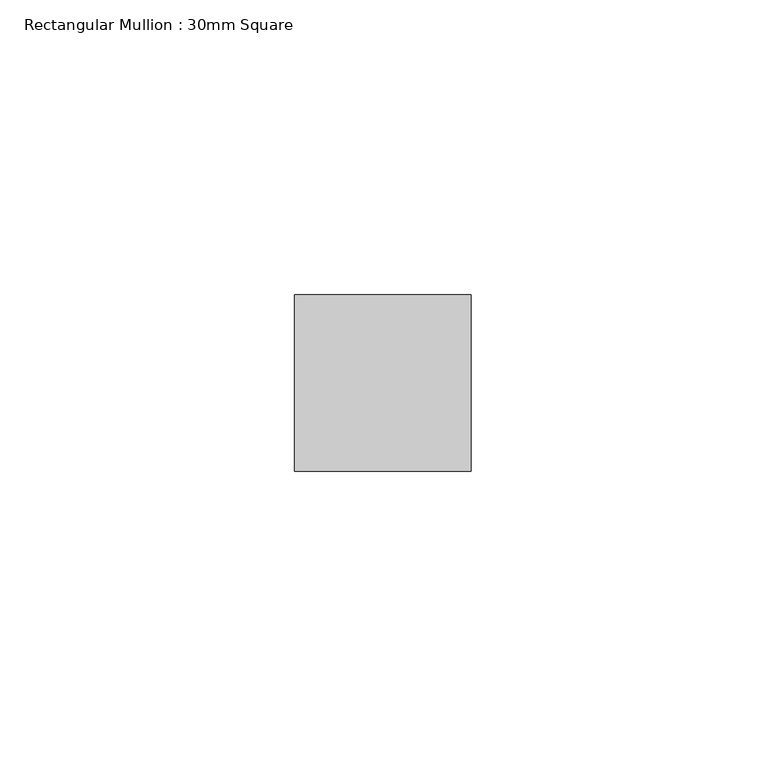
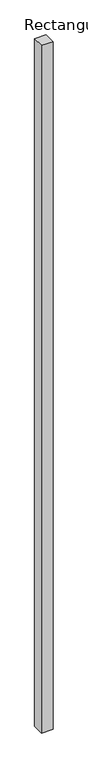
"""IFC4 building model written with IfcOpenShell, lengths in millimetres: member geometry, Rectangular Mullion : 30mm Square."""

from ifc_helpers import new_model, si_unit, frame, origin, place, context, project, spatial, polyline, outline, extrude, source, transform, mapped, element, save


def rectangular_mullion_30mm_square_e9093258(model_context):
    return source(origin(), model_context, "Body", "SweptSolid", [
        extrude(outline(polyline([(15.0, 15.0), (15.0, -15.0), (-15.0, -15.0), (-15.0, 15.0), (15.0, 15.0)])), frame((0.0, 0.0, -1884.5152951), z_axis=(0.0, 0.0, 1.0), x_axis=(1.0, 0.0, 0.0)), (0.0, 0.0, 1.0), 1884.5152951),
    ])


if __name__ == "__main__":
    model = new_model("IFC4")
    model_context = context("Model", 3, world=origin())
    ifc_project = project(units=[si_unit("LENGTHUNIT", "METRE", prefix="MILLI")], contexts=[model_context])
    site = spatial("IfcSite", under=ifc_project)
    building = spatial("IfcBuilding", under=site)
    placement = place(None, origin())
    rectangular_mullion_30mm_square_shape = rectangular_mullion_30mm_square_e9093258(model_context)
    element("IfcMember", 1, ObjectType="Rectangular Mullion : 30mm Square", at=placement, inside=building, context=model_context, shape_type="MappedRepresentation", body=[
        mapped(rectangular_mullion_30mm_square_shape, transform((0.0, 0.0, 0.0), x_axis=(1.0, 0.0, 0.0), y_axis=(0.0, 1.0, 0.0), z_axis=(0.0, 0.0, 1.0))),
    ])
    save(model, "model.ifc")
